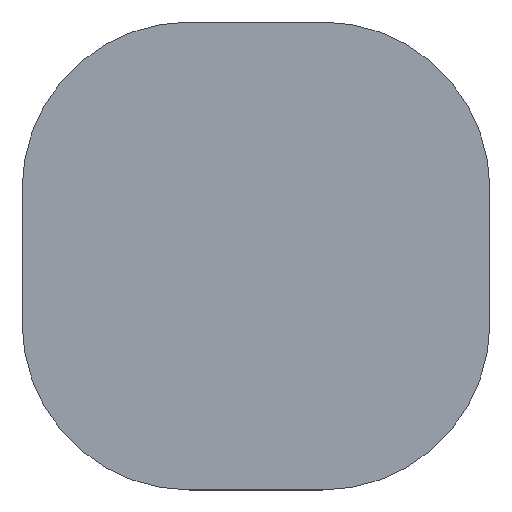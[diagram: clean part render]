
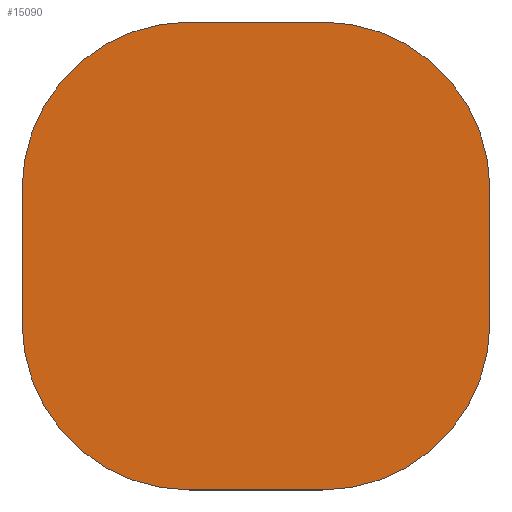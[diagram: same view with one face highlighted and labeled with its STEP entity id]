
A CAD part, top view. The second image highlights one B-rep face of the part: STEP entity #15090.
In plain terms, the highlighted planar face has unit normal (0, 0, 1).
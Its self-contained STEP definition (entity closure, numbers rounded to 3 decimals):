
#15015=CARTESIAN_POINT('',(0.,0.,20.));
#15016=DIRECTION('',(1.,0.,0.));
#15017=DIRECTION('',(0.,0.,1.));
#15018=AXIS2_PLACEMENT_3D('',#15015,#15017,#15016);
#15019=PLANE('',#15018);
#15020=CARTESIAN_POINT('',(-100.,-350.,20.));
#15021=VERTEX_POINT('',#15020);
#15022=CARTESIAN_POINT('',(100.,-350.,20.));
#15023=VERTEX_POINT('',#15022);
#15024=CARTESIAN_POINT('',(-100.,-350.,20.));
#15025=DIRECTION('',(1.,0.,0.));
#15026=VECTOR('',#15025,200.);
#15027=LINE('',#15024,#15026);
#15028=EDGE_CURVE('',#15021,#15023,#15027,.T.);
#15029=ORIENTED_EDGE('E9',*,*,#15028,.T.);
#15030=CARTESIAN_POINT('',(350.,-100.,20.));
#15031=VERTEX_POINT('',#15030);
#15032=CARTESIAN_POINT('',(100.,-100.,20.));
#15033=DIRECTION('',(0.,-1.,0.));
#15034=DIRECTION('',(0.,-0.,1.));
#15035=AXIS2_PLACEMENT_3D('',#15032,#15034,#15033);
#15036=CIRCLE('',#15035,250.);
#15037=EDGE_CURVE('',#15023,#15031,#15036,.T.);
#15038=ORIENTED_EDGE('E10',*,*,#15037,.T.);
#15039=CARTESIAN_POINT('',(350.,100.,20.));
#15040=VERTEX_POINT('',#15039);
#15041=CARTESIAN_POINT('',(350.,-100.,20.));
#15042=DIRECTION('',(0.,1.,0.));
#15043=VECTOR('',#15042,200.);
#15044=LINE('',#15041,#15043);
#15045=EDGE_CURVE('',#15031,#15040,#15044,.T.);
#15046=ORIENTED_EDGE('E11',*,*,#15045,.T.);
#15047=CARTESIAN_POINT('',(100.,350.,20.));
#15048=VERTEX_POINT('',#15047);
#15049=CARTESIAN_POINT('',(100.,100.,20.));
#15050=DIRECTION('',(1.,0.,0.));
#15051=DIRECTION('',(0.,0.,1.));
#15052=AXIS2_PLACEMENT_3D('',#15049,#15051,#15050);
#15053=CIRCLE('',#15052,250.);
#15054=EDGE_CURVE('',#15040,#15048,#15053,.T.);
#15055=ORIENTED_EDGE('E12',*,*,#15054,.T.);
#15056=CARTESIAN_POINT('',(-100.,350.,20.));
#15057=VERTEX_POINT('',#15056);
#15058=CARTESIAN_POINT('',(100.,350.,20.));
#15059=DIRECTION('',(-1.,0.,0.));
#15060=VECTOR('',#15059,200.);
#15061=LINE('',#15058,#15060);
#15062=EDGE_CURVE('',#15048,#15057,#15061,.T.);
#15063=ORIENTED_EDGE('E13',*,*,#15062,.T.);
#15064=CARTESIAN_POINT('',(-350.,100.,20.));
#15065=VERTEX_POINT('',#15064);
#15066=CARTESIAN_POINT('',(-100.,100.,20.));
#15067=DIRECTION('',(0.,1.,0.));
#15068=DIRECTION('',(0.,0.,1.));
#15069=AXIS2_PLACEMENT_3D('',#15066,#15068,#15067);
#15070=CIRCLE('',#15069,250.);
#15071=EDGE_CURVE('',#15057,#15065,#15070,.T.);
#15072=ORIENTED_EDGE('E14',*,*,#15071,.T.);
#15073=CARTESIAN_POINT('',(-350.,-100.,20.));
#15074=VERTEX_POINT('',#15073);
#15075=CARTESIAN_POINT('',(-350.,100.,20.));
#15076=DIRECTION('',(0.,-1.,0.));
#15077=VECTOR('',#15076,200.);
#15078=LINE('',#15075,#15077);
#15079=EDGE_CURVE('',#15065,#15074,#15078,.T.);
#15080=ORIENTED_EDGE('E15',*,*,#15079,.T.);
#15081=CARTESIAN_POINT('',(-100.,-100.,20.));
#15082=DIRECTION('',(-1.,0.,0.));
#15083=DIRECTION('',(-0.,0.,1.));
#15084=AXIS2_PLACEMENT_3D('',#15081,#15083,#15082);
#15085=CIRCLE('',#15084,250.);
#15086=EDGE_CURVE('',#15074,#15021,#15085,.T.);
#15087=ORIENTED_EDGE('E16',*,*,#15086,.T.);
#15088=EDGE_LOOP('',(#15029,#15038,#15046,#15055,#15063,#15072,#15080,#15087));
#15089=FACE_OUTER_BOUND('',#15088,.T.);
#15090=ADVANCED_FACE('F2',(#15089),#15019,.T.);
